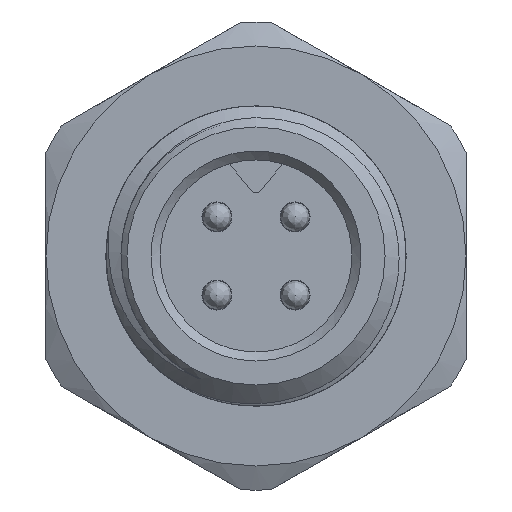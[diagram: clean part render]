
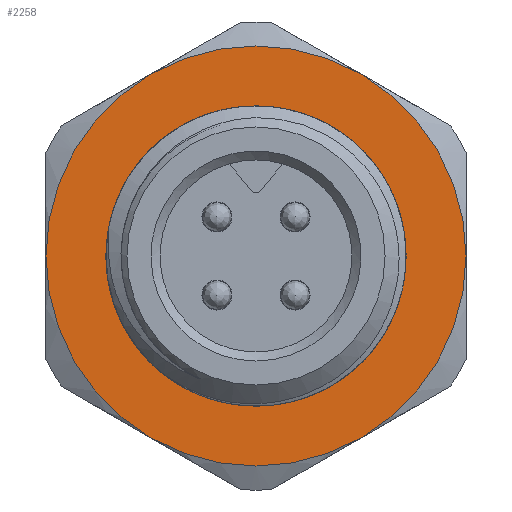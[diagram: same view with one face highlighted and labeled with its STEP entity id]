
A CAD part, left-side view. The second image highlights one B-rep face of the part: STEP entity #2258.
In plain terms, the highlighted planar face has unit normal (-1, 0, 0).
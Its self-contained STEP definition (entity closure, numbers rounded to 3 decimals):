
#645=PLANE('',#2862);
#754=CIRCLE('',#2845,3.5);
#755=CIRCLE('',#2847,3.5);
#756=CIRCLE('',#2849,3.5);
#757=CIRCLE('',#2851,3.5);
#758=CIRCLE('',#2853,3.5);
#759=CIRCLE('',#2855,3.5);
#762=CIRCLE('',#2860,2.5);
#763=CIRCLE('',#2861,2.5);
#955=EDGE_LOOP('',(#1579,#1580));
#956=EDGE_LOOP('',(#1581,#1582,#1583,#1584,#1585,#1586));
#1579=ORIENTED_EDGE('',*,*,#1974,.T.);
#1580=ORIENTED_EDGE('',*,*,#1975,.T.);
#1581=ORIENTED_EDGE('',*,*,#1961,.T.);
#1582=ORIENTED_EDGE('',*,*,#1958,.T.);
#1583=ORIENTED_EDGE('',*,*,#1956,.T.);
#1584=ORIENTED_EDGE('',*,*,#1970,.T.);
#1585=ORIENTED_EDGE('',*,*,#1967,.T.);
#1586=ORIENTED_EDGE('',*,*,#1964,.T.);
#1956=EDGE_CURVE('',#2600,#2601,#754,.T.);
#1958=EDGE_CURVE('',#2602,#2600,#755,.T.);
#1961=EDGE_CURVE('',#2603,#2602,#756,.T.);
#1964=EDGE_CURVE('',#2604,#2603,#757,.T.);
#1967=EDGE_CURVE('',#2605,#2604,#758,.T.);
#1970=EDGE_CURVE('',#2601,#2605,#759,.T.);
#1974=EDGE_CURVE('',#2608,#2609,#762,.T.);
#1975=EDGE_CURVE('',#2609,#2608,#763,.T.);
#2258=ADVANCED_FACE('',(#2368,#2369),#645,.F.);
#2368=FACE_BOUND('',#955,.T.);
#2369=FACE_BOUND('',#956,.T.);
#2600=VERTEX_POINT('',#9819);
#2601=VERTEX_POINT('',#9824);
#2602=VERTEX_POINT('',#9832);
#2603=VERTEX_POINT('',#9843);
#2604=VERTEX_POINT('',#9854);
#2605=VERTEX_POINT('',#9865);
#2608=VERTEX_POINT('',#9887);
#2609=VERTEX_POINT('',#9888);
#2845=AXIS2_PLACEMENT_3D('',#9825,#3470,#3471);
#2847=AXIS2_PLACEMENT_3D('',#9831,#3474,#3475);
#2849=AXIS2_PLACEMENT_3D('',#9842,#3478,#3479);
#2851=AXIS2_PLACEMENT_3D('',#9853,#3482,#3483);
#2853=AXIS2_PLACEMENT_3D('',#9864,#3486,#3487);
#2855=AXIS2_PLACEMENT_3D('',#9875,#3490,#3491);
#2860=AXIS2_PLACEMENT_3D('',#9886,#3500,#3501);
#2861=AXIS2_PLACEMENT_3D('',#9889,#3502,#3503);
#2862=AXIS2_PLACEMENT_3D('',#9890,#3504,#3505);
#3470=DIRECTION('',(-1.,0.,0.));
#3471=DIRECTION('',(0.,0.,-1.));
#3474=DIRECTION('',(-1.,0.,0.));
#3475=DIRECTION('',(0.,0.,-1.));
#3478=DIRECTION('',(-1.,0.,0.));
#3479=DIRECTION('',(0.,0.,-1.));
#3482=DIRECTION('',(-1.,0.,0.));
#3483=DIRECTION('',(0.,0.,-1.));
#3486=DIRECTION('',(-1.,0.,0.));
#3487=DIRECTION('',(0.,0.,-1.));
#3490=DIRECTION('',(-1.,0.,0.));
#3491=DIRECTION('',(0.,0.,-1.));
#3500=DIRECTION('',(1.,0.,0.));
#3501=DIRECTION('',(0.,0.,-1.));
#3502=DIRECTION('',(1.,0.,0.));
#3503=DIRECTION('',(0.,0.,-1.));
#3504=DIRECTION('',(1.,0.,0.));
#3505=DIRECTION('',(0.,0.,-1.));
#9819=CARTESIAN_POINT('',(-2.4,-2.4,2.381));
#9824=CARTESIAN_POINT('',(-2.4,1.1,2.381));
#9825=CARTESIAN_POINT('',(-2.4,-0.65,-0.65));
#9831=CARTESIAN_POINT('',(-2.4,-0.65,-0.65));
#9832=CARTESIAN_POINT('',(-2.4,-4.15,-0.65));
#9842=CARTESIAN_POINT('',(-2.4,-0.65,-0.65));
#9843=CARTESIAN_POINT('',(-2.4,-2.4,-3.681));
#9853=CARTESIAN_POINT('',(-2.4,-0.65,-0.65));
#9854=CARTESIAN_POINT('',(-2.4,1.1,-3.681));
#9864=CARTESIAN_POINT('',(-2.4,-0.65,-0.65));
#9865=CARTESIAN_POINT('',(-2.4,2.85,-0.65));
#9875=CARTESIAN_POINT('',(-2.4,-0.65,-0.65));
#9886=CARTESIAN_POINT('',(-2.4,-0.65,-0.65));
#9887=CARTESIAN_POINT('',(-2.4,1.251,0.974));
#9888=CARTESIAN_POINT('',(-2.4,-2.551,0.974));
#9889=CARTESIAN_POINT('',(-2.4,-0.65,-0.65));
#9890=CARTESIAN_POINT('',(-2.4,-0.65,-0.65));
